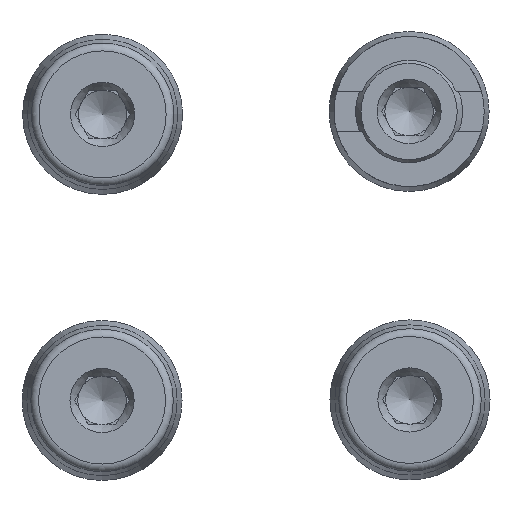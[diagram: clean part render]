
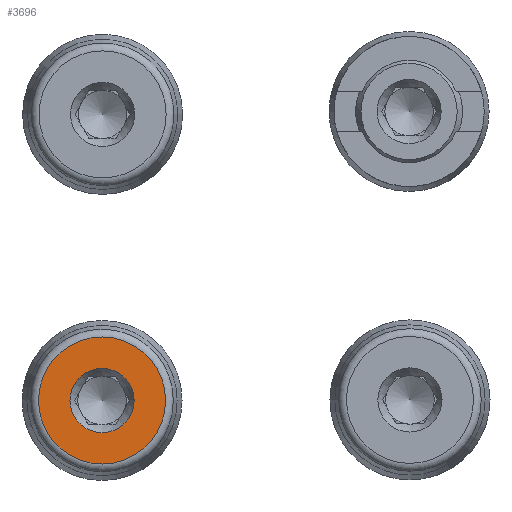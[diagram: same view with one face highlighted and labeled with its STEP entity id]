
A CAD part, front view. The second image highlights one B-rep face of the part: STEP entity #3696.
In plain terms, the highlighted planar face has unit normal (0, -1, 0) as drawn and (-1, 0, 0) by its records, which use the part's own axes.
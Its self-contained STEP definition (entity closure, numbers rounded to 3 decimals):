
#178 = DIRECTION ( 'NONE',  ( -1., 0., 0. ) ) ;
#421 = CIRCLE ( 'NONE', #3593, 4.064 ) ;
#427 = ORIENTED_EDGE ( 'NONE', *, *, #2821, .T. ) ;
#441 = EDGE_LOOP ( 'NONE', ( #427 ) ) ;
#918 = DIRECTION ( 'NONE',  ( 0., 0., -1. ) ) ;
#1415 = CARTESIAN_POINT ( 'NONE',  ( 0., 0., -8.046 ) ) ;
#1527 = EDGE_CURVE ( 'NONE', #2858, #2858, #421, .T. ) ;
#1579 = CARTESIAN_POINT ( 'NONE',  ( 0., 0., 0. ) ) ;
#2007 = CIRCLE ( 'NONE', #4881, 8.046 ) ;
#2745 = DIRECTION ( 'NONE',  ( -1., 0., 0. ) ) ;
#2770 = DIRECTION ( 'NONE',  ( 0., 0., 1. ) ) ;
#2778 = ORIENTED_EDGE ( 'NONE', *, *, #1527, .F. ) ;
#2821 = EDGE_CURVE ( 'NONE', #3085, #3085, #2007, .T. ) ;
#2858 = VERTEX_POINT ( 'NONE', #4081 ) ;
#2866 = CARTESIAN_POINT ( 'NONE',  ( 0., 0., 0. ) ) ;
#3085 = VERTEX_POINT ( 'NONE', #1415 ) ;
#3250 = CARTESIAN_POINT ( 'NONE',  ( 0., 0., 0. ) ) ;
#3305 = FACE_BOUND ( 'NONE', #3664, .T. ) ;
#3593 = AXIS2_PLACEMENT_3D ( 'NONE', #1579, #2745, #2770 ) ;
#3664 = EDGE_LOOP ( 'NONE', ( #2778 ) ) ;
#3696 = ADVANCED_FACE ( 'NONE', ( #3305, #4491 ), #3762, .F. ) ;
#3762 = PLANE ( 'NONE',  #4351 ) ;
#4081 = CARTESIAN_POINT ( 'NONE',  ( 0., 0., 4.064 ) ) ;
#4351 = AXIS2_PLACEMENT_3D ( 'NONE', #2866, #4418, #918 ) ;
#4418 = DIRECTION ( 'NONE',  ( 1., 0., 0. ) ) ;
#4467 = DIRECTION ( 'NONE',  ( 0., 0., -1. ) ) ;
#4491 = FACE_OUTER_BOUND ( 'NONE', #441, .T. ) ;
#4881 = AXIS2_PLACEMENT_3D ( 'NONE', #3250, #178, #4467 ) ;
